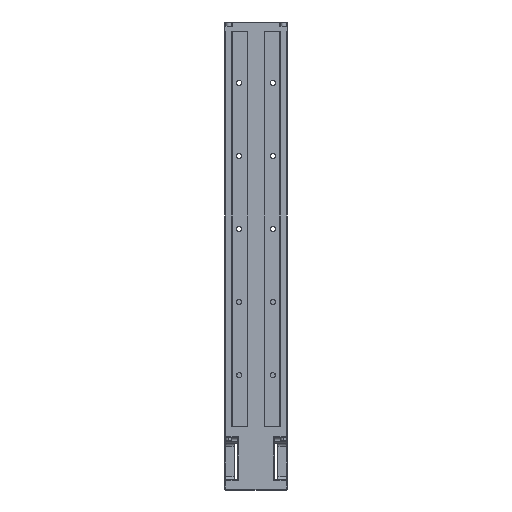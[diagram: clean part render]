
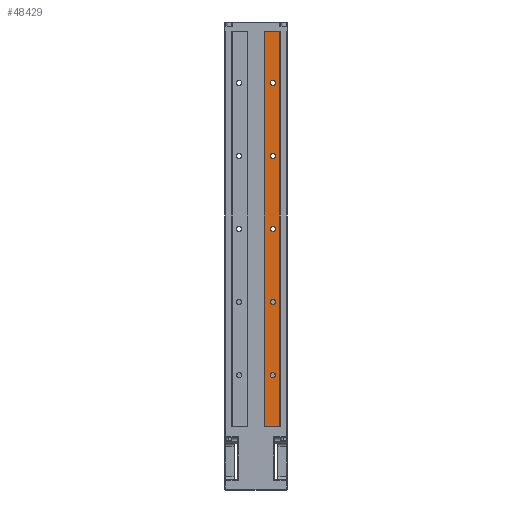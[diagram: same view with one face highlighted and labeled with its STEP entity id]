
A CAD part, front view. The second image highlights one B-rep face of the part: STEP entity #48429.
In plain terms, the highlighted planar face has unit normal (0, -1, 0).
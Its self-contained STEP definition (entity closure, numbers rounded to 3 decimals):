
#636 = ORIENTED_EDGE ( 'NONE', *, *, #42465, .T. ) ;
#899 = CARTESIAN_POINT ( 'NONE',  ( 23., 0., 366.5 ) ) ;
#1004 = CARTESIAN_POINT ( 'NONE',  ( 11.5, 0., 540. ) ) ;
#1308 = ORIENTED_EDGE ( 'NONE', *, *, #52072, .T. ) ;
#1401 = ORIENTED_EDGE ( 'NONE', *, *, #30740, .T. ) ;
#1491 = AXIS2_PLACEMENT_3D ( 'NONE', #29577, #52961, #39458 ) ;
#2379 = DIRECTION ( 'NONE',  ( 0., 1., 0. ) ) ;
#2448 = CARTESIAN_POINT ( 'NONE',  ( 23., 0., 73.5 ) ) ;
#2493 = LINE ( 'NONE', #24838, #30120 ) ;
#2787 = DIRECTION ( 'NONE',  ( 0., 0., -1. ) ) ;
#3084 = EDGE_CURVE ( 'NONE', #40401, #58125, #45412, .T. ) ;
#3299 = FACE_BOUND ( 'NONE', #48997, .T. ) ;
#3368 = ORIENTED_EDGE ( 'NONE', *, *, #45429, .F. ) ;
#3767 = DIRECTION ( 'NONE',  ( 0., 0., -1. ) ) ;
#4244 = CARTESIAN_POINT ( 'NONE',  ( 23., 0., 473.5 ) ) ;
#4546 = LINE ( 'NONE', #41298, #31470 ) ;
#4668 = DIRECTION ( 'NONE',  ( 0., 0., -1. ) ) ;
#4787 = DIRECTION ( 'NONE',  ( 0., 1., 0. ) ) ;
#4814 = CIRCLE ( 'NONE', #18311, 3.5 ) ;
#5338 = VERTEX_POINT ( 'NONE', #899 ) ;
#5811 = DIRECTION ( 'NONE',  ( 0., 1., 0. ) ) ;
#6216 = ORIENTED_EDGE ( 'NONE', *, *, #12806, .T. ) ;
#7132 = VERTEX_POINT ( 'NONE', #57283 ) ;
#7837 = CARTESIAN_POINT ( 'NONE',  ( 23., 0., 370. ) ) ;
#8443 = VERTEX_POINT ( 'NONE', #14993 ) ;
#8682 = AXIS2_PLACEMENT_3D ( 'NONE', #16894, #17479, #40936 ) ;
#9198 = ORIENTED_EDGE ( 'NONE', *, *, #18213, .T. ) ;
#9343 = CARTESIAN_POINT ( 'NONE',  ( 23., 0., 373.5 ) ) ;
#10263 = DIRECTION ( 'NONE',  ( 0., 0., -1. ) ) ;
#11018 = AXIS2_PLACEMENT_3D ( 'NONE', #59435, #21915, #3767 ) ;
#11458 = AXIS2_PLACEMENT_3D ( 'NONE', #34685, #39473, #43352 ) ;
#11471 = FACE_BOUND ( 'NONE', #54442, .T. ) ;
#11885 = ORIENTED_EDGE ( 'NONE', *, *, #49109, .T. ) ;
#12758 = DIRECTION ( 'NONE',  ( 0., 1., 0. ) ) ;
#12806 = EDGE_CURVE ( 'NONE', #23153, #42345, #33132, .T. ) ;
#13711 = ORIENTED_EDGE ( 'NONE', *, *, #17377, .T. ) ;
#13755 = CARTESIAN_POINT ( 'NONE',  ( 23., 0., 70. ) ) ;
#14993 = CARTESIAN_POINT ( 'NONE',  ( 23., 0., 173.5 ) ) ;
#15559 = EDGE_LOOP ( 'NONE', ( #23367, #1401 ) ) ;
#16652 = AXIS2_PLACEMENT_3D ( 'NONE', #52099, #5811, #34425 ) ;
#16886 = PLANE ( 'NONE',  #1491 ) ;
#16894 = CARTESIAN_POINT ( 'NONE',  ( 23., 0., 70. ) ) ;
#17276 = DIRECTION ( 'NONE',  ( -1., 0., 0. ) ) ;
#17377 = EDGE_CURVE ( 'NONE', #8443, #7132, #44721, .T. ) ;
#17479 = DIRECTION ( 'NONE',  ( 0., 1., 0. ) ) ;
#17700 = DIRECTION ( 'NONE',  ( 0., 0., -1. ) ) ;
#18160 = EDGE_LOOP ( 'NONE', ( #3368, #1308, #49290, #24508 ) ) ;
#18213 = EDGE_CURVE ( 'NONE', #5338, #29692, #25582, .T. ) ;
#18311 = AXIS2_PLACEMENT_3D ( 'NONE', #58046, #2379, #43920 ) ;
#18816 = AXIS2_PLACEMENT_3D ( 'NONE', #7837, #4787, #10263 ) ;
#19677 = DIRECTION ( 'NONE',  ( 0., 1., 0. ) ) ;
#20465 = CARTESIAN_POINT ( 'NONE',  ( 23., 0., 273.5 ) ) ;
#20869 = EDGE_CURVE ( 'NONE', #7132, #8443, #4814, .T. ) ;
#21915 = DIRECTION ( 'NONE',  ( 0., 1., 0. ) ) ;
#22161 = CIRCLE ( 'NONE', #8682, 3.5 ) ;
#23153 = VERTEX_POINT ( 'NONE', #36196 ) ;
#23219 = CARTESIAN_POINT ( 'NONE',  ( 11.5, 0., 0. ) ) ;
#23367 = ORIENTED_EDGE ( 'NONE', *, *, #34998, .T. ) ;
#23897 = ORIENTED_EDGE ( 'NONE', *, *, #47869, .T. ) ;
#24508 = ORIENTED_EDGE ( 'NONE', *, *, #36938, .T. ) ;
#24838 = CARTESIAN_POINT ( 'NONE',  ( 11.5, 0., 540. ) ) ;
#25053 = FACE_BOUND ( 'NONE', #56412, .T. ) ;
#25458 = LINE ( 'NONE', #44037, #26144 ) ;
#25582 = CIRCLE ( 'NONE', #18816, 3.5 ) ;
#25650 = FACE_BOUND ( 'NONE', #26796, .T. ) ;
#25998 = CIRCLE ( 'NONE', #36565, 3.5 ) ;
#26046 = CARTESIAN_POINT ( 'NONE',  ( 23., 0., 470. ) ) ;
#26144 = VECTOR ( 'NONE', #17276, 1000. ) ;
#26796 = EDGE_LOOP ( 'NONE', ( #9198, #23897 ) ) ;
#26884 = ORIENTED_EDGE ( 'NONE', *, *, #3084, .T. ) ;
#27986 = CARTESIAN_POINT ( 'NONE',  ( 32.5, 0., 540. ) ) ;
#29577 = CARTESIAN_POINT ( 'NONE',  ( 43., 0., 540. ) ) ;
#29692 = VERTEX_POINT ( 'NONE', #9343 ) ;
#30120 = VECTOR ( 'NONE', #2787, 1000. ) ;
#30740 = EDGE_CURVE ( 'NONE', #49275, #46007, #25998, .T. ) ;
#31470 = VECTOR ( 'NONE', #46080, 1000. ) ;
#32353 = CARTESIAN_POINT ( 'NONE',  ( 23., 0., 266.5 ) ) ;
#32669 = DIRECTION ( 'NONE',  ( 0., 0., -1. ) ) ;
#33132 = CIRCLE ( 'NONE', #11018, 3.5 ) ;
#34425 = DIRECTION ( 'NONE',  ( 0., 0., -1. ) ) ;
#34452 = CARTESIAN_POINT ( 'NONE',  ( 23., 0., 66.5 ) ) ;
#34685 = CARTESIAN_POINT ( 'NONE',  ( 23., 0., 270. ) ) ;
#34998 = EDGE_CURVE ( 'NONE', #46007, #49275, #22161, .T. ) ;
#35543 = CIRCLE ( 'NONE', #11458, 3.5 ) ;
#36196 = CARTESIAN_POINT ( 'NONE',  ( 23., 0., 466.5 ) ) ;
#36565 = AXIS2_PLACEMENT_3D ( 'NONE', #13755, #59159, #4668 ) ;
#36928 = DIRECTION ( 'NONE',  ( 0., 0., 1. ) ) ;
#36938 = EDGE_CURVE ( 'NONE', #45404, #38113, #2493, .T. ) ;
#38113 = VERTEX_POINT ( 'NONE', #23219 ) ;
#39458 = DIRECTION ( 'NONE',  ( 0., 0., -1. ) ) ;
#39473 = DIRECTION ( 'NONE',  ( 0., 1., 0. ) ) ;
#40401 = VERTEX_POINT ( 'NONE', #20465 ) ;
#40757 = EDGE_CURVE ( 'NONE', #40971, #45404, #4546, .T. ) ;
#40936 = DIRECTION ( 'NONE',  ( 0., 0., -1. ) ) ;
#40971 = VERTEX_POINT ( 'NONE', #27986 ) ;
#41112 = LINE ( 'NONE', #41699, #44235 ) ;
#41298 = CARTESIAN_POINT ( 'NONE',  ( -22.1, 0., 540. ) ) ;
#41699 = CARTESIAN_POINT ( 'NONE',  ( 32.5, 0., 540. ) ) ;
#42345 = VERTEX_POINT ( 'NONE', #4244 ) ;
#42465 = EDGE_CURVE ( 'NONE', #58125, #40401, #35543, .T. ) ;
#43352 = DIRECTION ( 'NONE',  ( 0., 0., -1. ) ) ;
#43920 = DIRECTION ( 'NONE',  ( 0., 0., -1. ) ) ;
#44037 = CARTESIAN_POINT ( 'NONE',  ( -22.1, 0., 0. ) ) ;
#44235 = VECTOR ( 'NONE', #36928, 1000. ) ;
#44465 = CARTESIAN_POINT ( 'NONE',  ( 32.5, 0., 0. ) ) ;
#44528 = FACE_BOUND ( 'NONE', #15559, .T. ) ;
#44721 = CIRCLE ( 'NONE', #57235, 3.5 ) ;
#45404 = VERTEX_POINT ( 'NONE', #1004 ) ;
#45412 = CIRCLE ( 'NONE', #16652, 3.5 ) ;
#45429 = EDGE_CURVE ( 'NONE', #57433, #38113, #25458, .T. ) ;
#45611 = CARTESIAN_POINT ( 'NONE',  ( 23., 0., 370. ) ) ;
#46007 = VERTEX_POINT ( 'NONE', #34452 ) ;
#46080 = DIRECTION ( 'NONE',  ( -1., 0., 0. ) ) ;
#47869 = EDGE_CURVE ( 'NONE', #29692, #5338, #57159, .T. ) ;
#48429 = ADVANCED_FACE ( 'NONE', ( #44528, #11471, #3299, #25650, #25053, #48449 ), #16886, .T. ) ;
#48449 = FACE_OUTER_BOUND ( 'NONE', #18160, .T. ) ;
#48997 = EDGE_LOOP ( 'NONE', ( #636, #26884 ) ) ;
#49109 = EDGE_CURVE ( 'NONE', #42345, #23153, #52564, .T. ) ;
#49275 = VERTEX_POINT ( 'NONE', #2448 ) ;
#49290 = ORIENTED_EDGE ( 'NONE', *, *, #40757, .T. ) ;
#49668 = AXIS2_PLACEMENT_3D ( 'NONE', #26046, #12758, #58179 ) ;
#51209 = CARTESIAN_POINT ( 'NONE',  ( 23., 0., 170. ) ) ;
#51377 = ORIENTED_EDGE ( 'NONE', *, *, #20869, .T. ) ;
#52072 = EDGE_CURVE ( 'NONE', #57433, #40971, #41112, .T. ) ;
#52099 = CARTESIAN_POINT ( 'NONE',  ( 23., 0., 270. ) ) ;
#52564 = CIRCLE ( 'NONE', #49668, 3.5 ) ;
#52961 = DIRECTION ( 'NONE',  ( 0., -1., 0. ) ) ;
#54264 = AXIS2_PLACEMENT_3D ( 'NONE', #45611, #54670, #17700 ) ;
#54442 = EDGE_LOOP ( 'NONE', ( #51377, #13711 ) ) ;
#54670 = DIRECTION ( 'NONE',  ( 0., 1., 0. ) ) ;
#56412 = EDGE_LOOP ( 'NONE', ( #6216, #11885 ) ) ;
#57159 = CIRCLE ( 'NONE', #54264, 3.5 ) ;
#57235 = AXIS2_PLACEMENT_3D ( 'NONE', #51209, #19677, #32669 ) ;
#57283 = CARTESIAN_POINT ( 'NONE',  ( 23., 0., 166.5 ) ) ;
#57433 = VERTEX_POINT ( 'NONE', #44465 ) ;
#58046 = CARTESIAN_POINT ( 'NONE',  ( 23., 0., 170. ) ) ;
#58125 = VERTEX_POINT ( 'NONE', #32353 ) ;
#58179 = DIRECTION ( 'NONE',  ( 0., 0., -1. ) ) ;
#59159 = DIRECTION ( 'NONE',  ( 0., 1., 0. ) ) ;
#59435 = CARTESIAN_POINT ( 'NONE',  ( 23., 0., 470. ) ) ;
